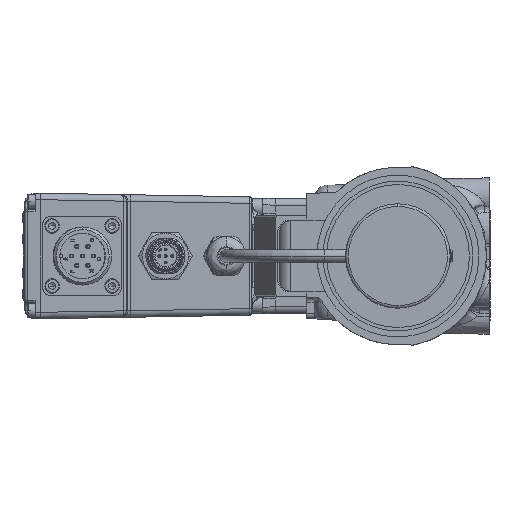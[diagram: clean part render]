
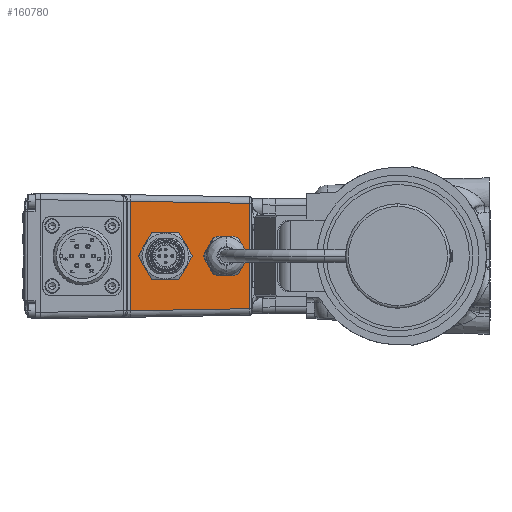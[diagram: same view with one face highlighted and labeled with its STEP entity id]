
A CAD part, left-side view. The second image highlights one B-rep face of the part: STEP entity #160780.
In plain terms, the highlighted planar face has unit normal (-1, -0.018, 0).
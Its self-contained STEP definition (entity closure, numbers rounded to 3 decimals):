
#6100=DIRECTION('',(0.,0.,-1.));
#6101=VECTOR('',#6100,41.942);
#6102=CARTESIAN_POINT('',(-79.471,102.62,20.971));
#6103=LINE('',#6102,#6101);
#52048=DIRECTION('',(-0.017,1.,-0.017));
#52049=VECTOR('',#52048,45.652);
#52050=CARTESIAN_POINT('',(-78.674,56.983,
-20.175));
#52051=LINE('',#52050,#52049);
#52055=DIRECTION('',(0.017,-1.,-0.017));
#52056=VECTOR('',#52055,45.652);
#52057=CARTESIAN_POINT('',(-79.471,102.62,
20.971));
#52058=LINE('',#52057,#52056);
#52062=DIRECTION('',(-0.009,0.5,-0.866));
#52063=VECTOR('',#52062,6.63);
#52064=CARTESIAN_POINT('',(-78.918,70.964,
6.621));
#52065=LINE('',#52064,#52063);
#52069=CARTESIAN_POINT('',(-78.834,66.127,0.));
#52070=DIRECTION('',(-1.,-0.017,0.));
#52071=DIRECTION('',(-0.017,0.994,0.107));
#52072=AXIS2_PLACEMENT_3D('',#52069,#52070,#52071);
#52077=DIRECTION('',(0.009,-0.5,-0.866));
#52078=VECTOR('',#52077,6.63);
#52079=CARTESIAN_POINT('',(-78.976,74.279,
-0.879));
#52080=LINE('',#52079,#52078);
#52084=CARTESIAN_POINT('',(-78.834,66.127,
0.));
#52085=DIRECTION('',(-1.,-0.017,0.));
#52086=DIRECTION('',(-0.01,0.59,-0.807));
#52087=AXIS2_PLACEMENT_3D('',#52084,#52085,#52086);
#52092=CARTESIAN_POINT('',(-78.834,66.127,
0.));
#52093=DIRECTION('',(-1.,-0.017,0.));
#52094=DIRECTION('',(0.007,-0.404,-0.915));
#52095=AXIS2_PLACEMENT_3D('',#52092,#52093,#52094);
#52100=DIRECTION('',(0.009,-0.5,0.866));
#52101=VECTOR('',#52100,6.63);
#52102=CARTESIAN_POINT('',(-78.749,61.29,
-6.621));
#52103=LINE('',#52102,#52101);
#52107=CARTESIAN_POINT('',(-78.834,66.127,0.));
#52108=DIRECTION('',(-1.,-0.017,0.));
#52109=DIRECTION('',(0.017,-0.994,-0.107));
#52110=AXIS2_PLACEMENT_3D('',#52107,#52108,#52109);
#52115=DIRECTION('',(-0.009,0.5,0.866));
#52116=VECTOR('',#52115,6.63);
#52117=CARTESIAN_POINT('',(-78.692,57.976,
0.879));
#52118=LINE('',#52117,#52116);
#52122=CARTESIAN_POINT('',(-78.834,66.127,
0.));
#52123=DIRECTION('',(-1.,-0.017,0.));
#52124=DIRECTION('',(0.01,-0.59,0.807));
#52125=AXIS2_PLACEMENT_3D('',#52122,#52123,#52124);
#52130=CARTESIAN_POINT('',(-78.834,66.127,
0.));
#52131=DIRECTION('',(-1.,-0.017,0.));
#52132=DIRECTION('',(-0.007,0.404,0.915));
#52133=AXIS2_PLACEMENT_3D('',#52130,#52131,#52132);
#52138=CARTESIAN_POINT('',(-79.235,89.124,0.));
#52139=DIRECTION('',(-1.,-0.017,0.));
#52140=DIRECTION('',(0.017,-1.,0.));
#52141=AXIS2_PLACEMENT_3D('',#52138,#52139,#52140);
#52146=CARTESIAN_POINT('',(-79.235,89.124,0.));
#52147=DIRECTION('',(-1.,-0.017,0.));
#52148=DIRECTION('',(-0.017,1.,0.));
#52149=AXIS2_PLACEMENT_3D('',#52146,#52147,#52148);
#52161=DIRECTION('',(0.,0.,1.));
#52162=VECTOR('',#52161,40.349);
#52163=CARTESIAN_POINT('',(-78.674,56.983,
-20.175));
#52164=LINE('',#52163,#52162);
#52246=DIRECTION('',(0.017,-1.,0.));
#52247=VECTOR('',#52246,6.63);
#52248=CARTESIAN_POINT('',(-78.892,69.442,7.5));
#52249=LINE('',#52248,#52247);
#53025=DIRECTION('',(-0.017,1.,0.));
#53026=VECTOR('',#53025,6.63);
#53027=CARTESIAN_POINT('',(-78.776,62.812,-7.5));
#53028=LINE('',#53027,#53026);
#93454=CARTESIAN_POINT('',(-78.749,61.29,
-6.621));
#93455=CARTESIAN_POINT('',(-78.692,57.976,
-0.879));
#93456=VERTEX_POINT('',#93454);
#93457=VERTEX_POINT('',#93455);
#93458=CARTESIAN_POINT('',(-78.674,56.983,
-20.175));
#93459=CARTESIAN_POINT('',(-78.674,56.983,
20.175));
#93460=VERTEX_POINT('',#93458);
#93461=VERTEX_POINT('',#93459);
#93462=CARTESIAN_POINT('',(-79.471,102.62,
-20.971));
#93463=VERTEX_POINT('',#93462);
#93464=CARTESIAN_POINT('',(-79.471,102.62,
20.971));
#93465=VERTEX_POINT('',#93464);
#93466=CARTESIAN_POINT('',(-78.918,70.964,
6.621));
#93467=CARTESIAN_POINT('',(-78.976,74.279,
0.879));
#93468=VERTEX_POINT('',#93466);
#93469=VERTEX_POINT('',#93467);
#93470=CARTESIAN_POINT('',(-78.976,74.279,
-0.879));
#93471=VERTEX_POINT('',#93470);
#93472=CARTESIAN_POINT('',(-78.918,70.964,
-6.621));
#93473=VERTEX_POINT('',#93472);
#93474=CARTESIAN_POINT('',(-78.892,69.442,
-7.5));
#93475=VERTEX_POINT('',#93474);
#93476=CARTESIAN_POINT('',(-78.776,62.812,-7.5));
#93477=VERTEX_POINT('',#93476);
#93478=CARTESIAN_POINT('',(-78.692,57.976,
0.879));
#93479=VERTEX_POINT('',#93478);
#93480=CARTESIAN_POINT('',(-78.749,61.29,
6.621));
#93481=VERTEX_POINT('',#93480);
#93482=CARTESIAN_POINT('',(-78.776,62.812,
7.5));
#93483=VERTEX_POINT('',#93482);
#93484=CARTESIAN_POINT('',(-78.892,69.442,7.5));
#93485=VERTEX_POINT('',#93484);
#93486=CARTESIAN_POINT('',(-79.081,80.302,0.));
#93487=CARTESIAN_POINT('',(-79.389,97.945,0.));
#93488=VERTEX_POINT('',#93486);
#93489=VERTEX_POINT('',#93487);
#160736=CARTESIAN_POINT('',(-78.5,47.,-22.62));
#160737=DIRECTION('',(1.,0.017,0.));
#160738=DIRECTION('',(0.,0.,-1.));
#160739=AXIS2_PLACEMENT_3D('',#160736,#160737,#160738);
#160740=PLANE('',#160739);
#160742=ORIENTED_EDGE('',*,*,#160741,.F.);
#160744=ORIENTED_EDGE('',*,*,#160743,.T.);
#160745=ORIENTED_EDGE('',*,*,#105282,.F.);
#160746=ORIENTED_EDGE('',*,*,#105407,.T.);
#160747=EDGE_LOOP('',(#160742,#160744,#160745,#160746));
#160748=FACE_OUTER_BOUND('',#160747,.F.);
#160750=ORIENTED_EDGE('',*,*,#160749,.T.);
#160752=ORIENTED_EDGE('',*,*,#160751,.T.);
#160754=ORIENTED_EDGE('',*,*,#160753,.T.);
#160756=ORIENTED_EDGE('',*,*,#160755,.T.);
#160758=ORIENTED_EDGE('',*,*,#160757,.F.);
#160760=ORIENTED_EDGE('',*,*,#160759,.T.);
#160761=ORIENTED_EDGE('',*,*,#160719,.T.);
#160763=ORIENTED_EDGE('',*,*,#160762,.T.);
#160765=ORIENTED_EDGE('',*,*,#160764,.T.);
#160767=ORIENTED_EDGE('',*,*,#160766,.T.);
#160769=ORIENTED_EDGE('',*,*,#160768,.F.);
#160771=ORIENTED_EDGE('',*,*,#160770,.T.);
#160772=EDGE_LOOP('',(#160750,#160752,#160754,#160756,#160758,#160760,#160761,
#160763,#160765,#160767,#160769,#160771));
#160773=FACE_BOUND('',#160772,.F.);
#160775=ORIENTED_EDGE('',*,*,#160774,.T.);
#160777=ORIENTED_EDGE('',*,*,#160776,.T.);
#160778=EDGE_LOOP('',(#160775,#160777));
#160779=FACE_BOUND('',#160778,.F.);
#52073=CIRCLE('',#52072,8.2);
#52088=CIRCLE('',#52087,8.2);
#52096=CIRCLE('',#52095,8.2);
#52111=CIRCLE('',#52110,8.2);
#52126=CIRCLE('',#52125,8.2);
#52134=CIRCLE('',#52133,8.2);
#52142=CIRCLE('',#52141,8.822);
#52150=CIRCLE('',#52149,8.822);
#105282=EDGE_CURVE('',#93465,#93463,#6103,.T.);
#105407=EDGE_CURVE('',#93465,#93461,#52058,.T.);
#160719=EDGE_CURVE('',#93456,#93457,#52103,.T.);
#160741=EDGE_CURVE('',#93460,#93461,#52164,.T.);
#160743=EDGE_CURVE('',#93460,#93463,#52051,.T.);
#160749=EDGE_CURVE('',#93468,#93469,#52065,.T.);
#160751=EDGE_CURVE('',#93469,#93471,#52073,.T.);
#160753=EDGE_CURVE('',#93471,#93473,#52080,.T.);
#160755=EDGE_CURVE('',#93473,#93475,#52088,.T.);
#160757=EDGE_CURVE('',#93477,#93475,#53028,.T.);
#160759=EDGE_CURVE('',#93477,#93456,#52096,.T.);
#160762=EDGE_CURVE('',#93457,#93479,#52111,.T.);
#160764=EDGE_CURVE('',#93479,#93481,#52118,.T.);
#160766=EDGE_CURVE('',#93481,#93483,#52126,.T.);
#160768=EDGE_CURVE('',#93485,#93483,#52249,.T.);
#160770=EDGE_CURVE('',#93485,#93468,#52134,.T.);
#160774=EDGE_CURVE('',#93488,#93489,#52142,.T.);
#160776=EDGE_CURVE('',#93489,#93488,#52150,.T.);
#160780=ADVANCED_FACE('',(#160748,#160773,#160779),#160740,.F.);
